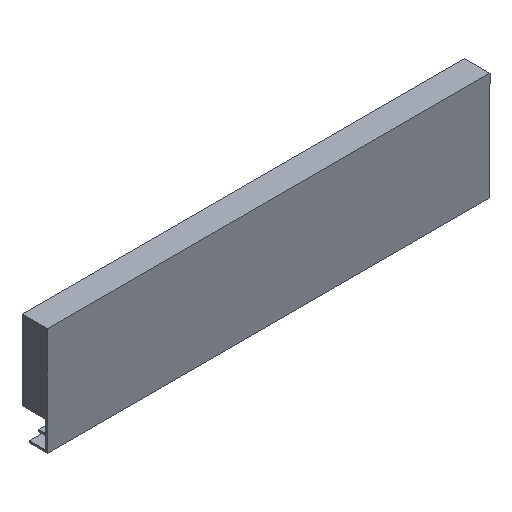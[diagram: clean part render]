
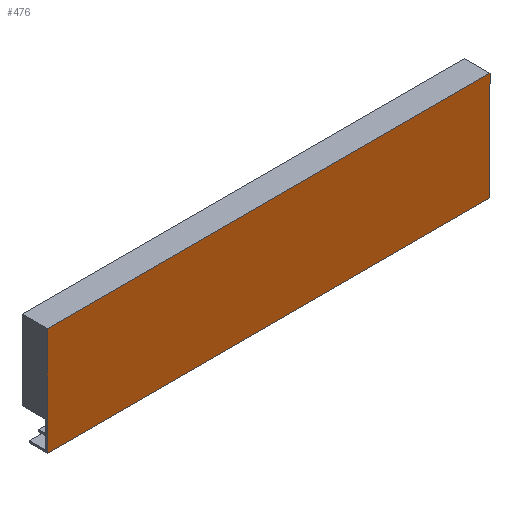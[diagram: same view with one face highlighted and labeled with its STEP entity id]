
A CAD part, isometric view. The second image highlights one B-rep face of the part: STEP entity #476.
In plain terms, the highlighted planar face has unit normal (0, -1, 0).
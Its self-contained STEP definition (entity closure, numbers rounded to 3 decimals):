
#1 = DIRECTION ( 'NONE',  ( 1., 0., 0. ) ) ;
#18 = CARTESIAN_POINT ( 'NONE',  ( -138.5, -5.5, 49.7 ) ) ;
#28 = VERTEX_POINT ( 'NONE', #60 ) ;
#49 = VERTEX_POINT ( 'NONE', #79 ) ;
#52 = VERTEX_POINT ( 'NONE', #82 ) ;
#53 = VERTEX_POINT ( 'NONE', #83 ) ;
#60 = CARTESIAN_POINT ( 'NONE',  ( -138.5, -5.5, 49.7 ) ) ;
#79 = CARTESIAN_POINT ( 'NONE',  ( 138.5, -5.5, -17.9 ) ) ;
#82 = CARTESIAN_POINT ( 'NONE',  ( -138.5, -5.5, -17.9 ) ) ;
#83 = CARTESIAN_POINT ( 'NONE',  ( 138.5, -5.5, 49.7 ) ) ;
#92 = PLANE ( 'NONE',  #521 ) ;
#95 = CARTESIAN_POINT ( 'NONE',  ( -138.5, -5.5, -17.9 ) ) ;
#101 = DIRECTION ( 'NONE',  ( 0., 1., 0. ) ) ;
#102 = DIRECTION ( 'NONE',  ( 0., 0., -1. ) ) ;
#153 = CARTESIAN_POINT ( 'NONE',  ( -138.5, -5.5, -17.9 ) ) ;
#154 = DIRECTION ( 'NONE',  ( 0., 0., 1. ) ) ;
#228 = ORIENTED_EDGE ( 'NONE', *, *, #512, .T. ) ;
#229 = ORIENTED_EDGE ( 'NONE', *, *, #529, .F. ) ;
#230 = ORIENTED_EDGE ( 'NONE', *, *, #491, .F. ) ;
#231 = ORIENTED_EDGE ( 'NONE', *, *, #508, .T. ) ;
#266 = FACE_OUTER_BOUND ( 'NONE', #274, .T. ) ;
#274 = EDGE_LOOP ( 'NONE', ( #228, #229, #230, #231 ) ) ;
#308 = LINE ( 'NONE', #153, #311 ) ;
#311 = VECTOR ( 'NONE', #154, 1000. ) ;
#338 = LINE ( 'NONE', #465, #339 ) ;
#339 = VECTOR ( 'NONE', #461, 1000. ) ;
#346 = LINE ( 'NONE', #458, #347 ) ;
#347 = VECTOR ( 'NONE', #457, 1000. ) ;
#367 = LINE ( 'NONE', #18, #368 ) ;
#368 = VECTOR ( 'NONE', #1, 1000. ) ;
#457 = DIRECTION ( 'NONE',  ( 0., 0., 1. ) ) ;
#458 = CARTESIAN_POINT ( 'NONE',  ( 138.5, -5.5, -17.9 ) ) ;
#461 = DIRECTION ( 'NONE',  ( 1., 0., 0. ) ) ;
#465 = CARTESIAN_POINT ( 'NONE',  ( -138.5, -5.5, -17.9 ) ) ;
#476 = ADVANCED_FACE ( 'NONE', ( #266 ), #92, .F. ) ;
#491 = EDGE_CURVE ( 'NONE', #52, #28, #308, .T. ) ;
#508 = EDGE_CURVE ( 'NONE', #52, #49, #338, .T. ) ;
#512 = EDGE_CURVE ( 'NONE', #49, #53, #346, .T. ) ;
#521 = AXIS2_PLACEMENT_3D ( 'NONE', #95, #101, #102 ) ;
#529 = EDGE_CURVE ( 'NONE', #28, #53, #367, .T. ) ;
